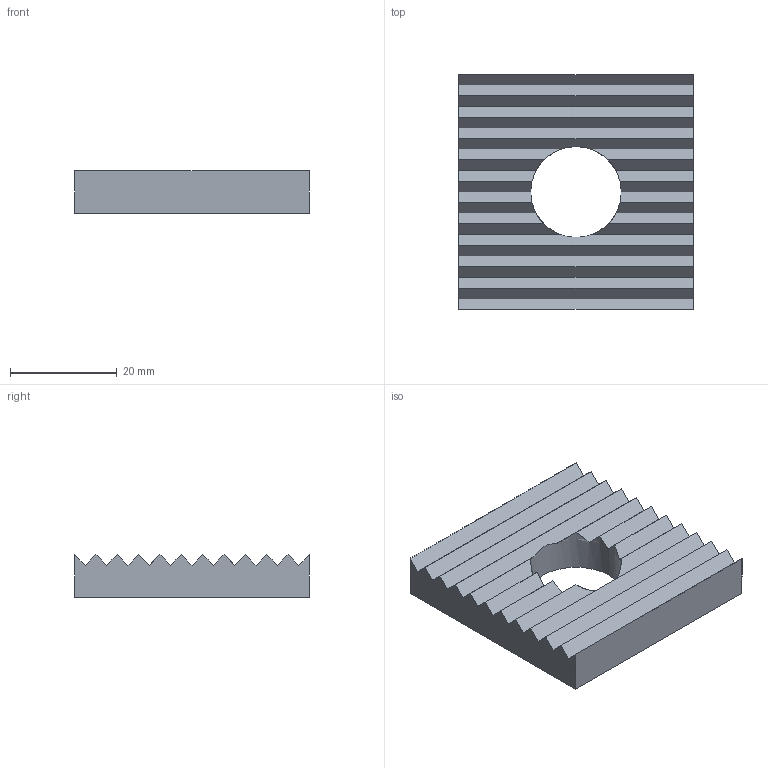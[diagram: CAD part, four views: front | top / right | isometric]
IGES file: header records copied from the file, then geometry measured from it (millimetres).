
Start section: 3D InterOp IGES (Version 26 1 0), Spatial Corp. Copyright (c) 1999-2007.
Global section: file name: CPA448T17.igs; native system: Spatial Corp.; preprocessor: 3D InterOp GENERIC/IGES 3.0; author: Noname; organization: Noname; date: 20181022.154056; units: millimetre
Bounding box: 44 x 44 x 8 mm (x, y, z)
Surface area: 5810.5 mm2 (no closed solid volume)
Topology: 0 solids, 0 shells, 37 faces, 212 edges, 212 vertices
Faces by surface type: extrusion 35, revolution 2
